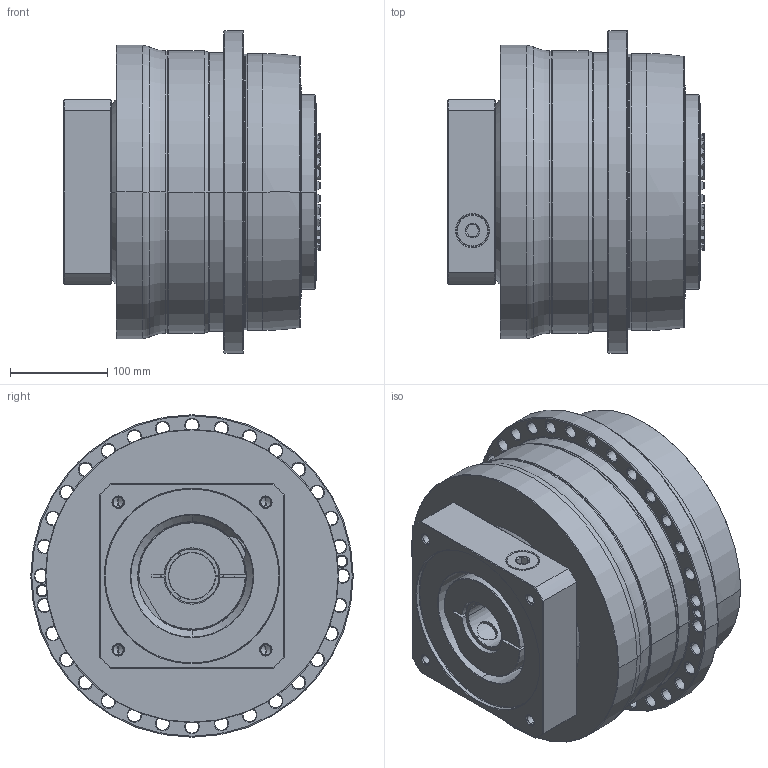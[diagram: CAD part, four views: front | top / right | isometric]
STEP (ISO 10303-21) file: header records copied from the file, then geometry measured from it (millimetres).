
FILE_DESCRIPTION((''),'2;1');
FILE_NAME('APC285_1ST_48-P0409B10201_ASM','2018-06-12T',('d01226'),(''),'PRO/ENGINEER BY PARAMETRIC TECHNOLOGY CORPORATION, 2008410','PRO/ENGINEER BY PARAMETRIC TECHNOLOGY CORPORATION, 2008410','');
FILE_SCHEMA(('CONFIG_CONTROL_DESIGN'));
Length unit declared in the file: millimetre
Products named in the file (9): P0278801003; P03598G0103; P1318810301; P0503B00016; P0912853001; P1211800001; P0409B10201; 21711426021; APC285_1ST_48-P0409B10201_ASM
Assembly tree (8 placements, depth 2):
  APC285_1ST_48-P0409B10201_ASM
    P0278801003
    P03598G0103
    P1318810301
    P0503B00016
    P0912853001
    P1211800001
    P0409B10201
    21711426021
Bounding box: 264.1 x 332 x 332 mm (x, y, z)
Volume: 16162280.8 mm3; surface area: 1051874.4 mm2
Topology: 9 solids, 22 shells, 810 faces, 1993 edges, 1223 vertices
Faces by surface type: cone 290, cylinder 235, plane 147, torus 124, bspline 14
Entity records: 29616 total; most frequent: CARTESIAN_POINT 10021, DIRECTION 4363, ORIENTED_EDGE 3900, EDGE_CURVE 1975, AXIS2_PLACEMENT_3D 1911, VERTEX_POINT 1223, CIRCLE 1086, EDGE_LOOP 932
